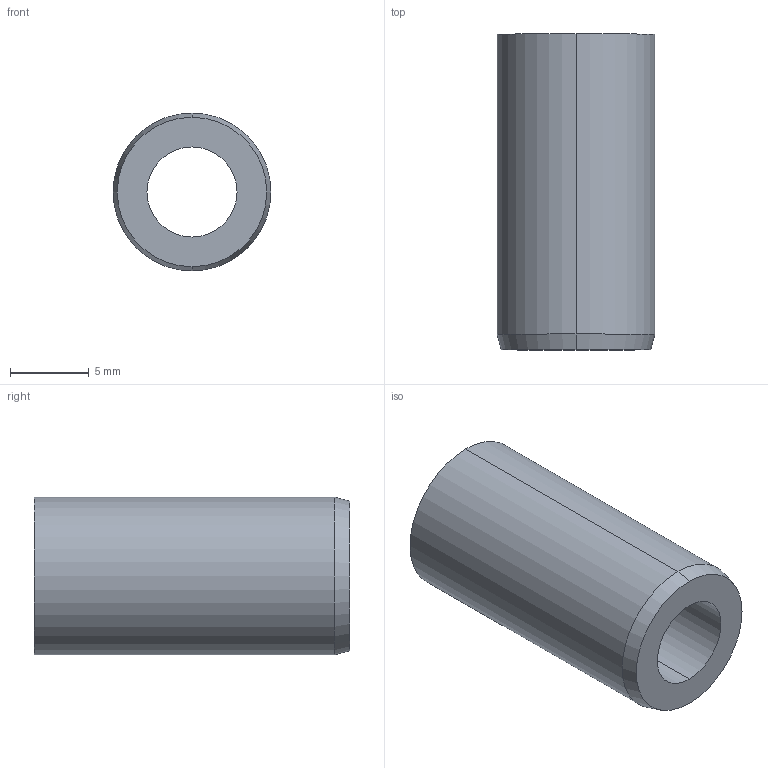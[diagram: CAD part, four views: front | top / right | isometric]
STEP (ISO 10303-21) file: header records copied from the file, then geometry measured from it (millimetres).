
FILE_DESCRIPTION (( 'STEP AP214' ), '1' );
FILE_NAME ('179-B5,7-20-A.step', '2024-10-17T05:57:51', ( '' ), ( '' ), 'SwSTEP 2.0', 'SolidWorks 2022', '' );
FILE_SCHEMA (( 'AUTOMOTIVE_DESIGN' ));
Length unit declared in the file: millimetre
Products named in the file (1): 179-B5,7-20-A
Bounding box: 10 x 20 x 10 mm (x, y, z)
Volume: 1056 mm3; surface area: 1082.4 mm2
Topology: 1 solids, 1 shells, 10 faces, 20 edges, 12 vertices
Faces by surface type: cylinder 4, cone 2, torus 2, plane 2
Entity records: 414 total; most frequent: DIRECTION 56, CARTESIAN_POINT 43, ORIENTED_EDGE 40, AXIS2_PLACEMENT_3D 25, EDGE_CURVE 20, CIRCLE 14, UNCERTAINTY_MEASURE_WITH_UNIT 13, FILL_AREA_STYLE_COLOUR 12
